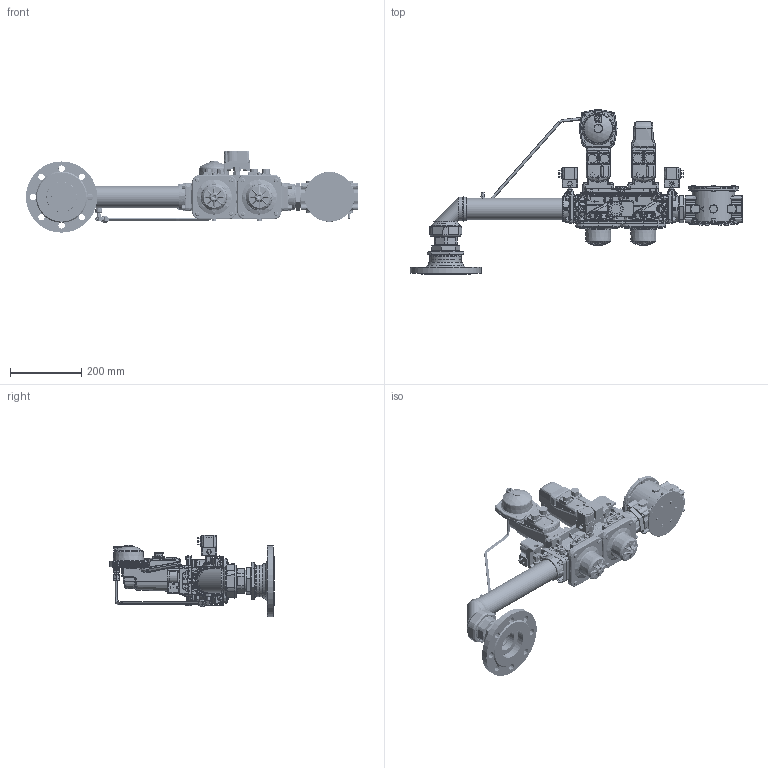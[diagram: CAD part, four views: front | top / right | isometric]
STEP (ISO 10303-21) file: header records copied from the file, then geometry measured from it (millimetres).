
FILE_DESCRIPTION (( 'STEP AP203' ), '1' );
FILE_NAME ('19990599-110882.step', '2016-12-15T11:11:50', ( '' ), ( '' ), 'SwSTEP 2.0', 'SolidWorks 2016', '' );
FILE_SCHEMA (( 'CONFIG_CONTROL_DESIGN' ));
Length unit declared in the file: millimetre
Products named in the file (21): 23867-01479; 0010010014-103297-AUTO; 0006020270-01481; 3793-01437; 0006020262-103298; 0010010014-103296; 0005100118-109191; 31483-01527; 0005040068-101251; 0005090195-110634; 0005150224-109401; 0005150151-100568; 0005090188-110631; 30930-109402; 0010060030-01485; 0005090232-01439; 30282-102826; 4987-01486; 0005090231-01440; 18681-103294; 19990599-110882
Assembly tree (25 placements, depth 3):
  19990599-110882
    0005150224-109401
    30930-109402
    30282-102826  x2
    18681-103294
    0010010014-103296
      0010010014-103297-AUTO
      3793-01437
    31483-01527
    0005090195-110634  x2
    0005090188-110631
    0005090232-01439
    0005090231-01440
    23867-01479
    0006020270-01481
    0006020262-103298
    0005100118-109191
    0005040068-101251  x3
    0005150151-100568  x2
    0010060030-01485
    4987-01486
Bounding box: 932.61 x 462.22 x 228.3 mm (x, y, z)
Volume: 7483214.8 mm3; surface area: 1143886.1 mm2
Topology: 49 solids, 71 shells, 10450 faces, 24938 edges, 14668 vertices
Faces by surface type: bspline 4231, cylinder 2693, plane 2686, cone 488, torus 284, sphere 68
Full cylindrical faces by diameter (mm): 1 x1, 1.5 x2, 2 x5, 3 x2, 3.1 x1, 4 x6, 4.2 x16, 4.3 x4, 4.35 x6, 4.351 x2, 4.5 x1, 4.8 x3, 5 x17, 5.4 x1, 5.5 x6, 5.9 x1, 6 x3, 6.2 x3, 6.5 x9, 7 x2, 7.76 x24, 8 x23, 8.4 x8, 8.5 x1, 8.55 x1, 8.6 x1, 8.8 x1, 9 x28, 9.5 x7, 9.728 x7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
Entity records: 451948 total; most frequent: CARTESIAN_POINT 272694, ORIENTED_EDGE 41666, DIRECTION 28363, EDGE_CURVE 20833, VERTEX_POINT 12691, AXIS2_PLACEMENT_3D 10968, EDGE_LOOP 10546, FACE_OUTER_BOUND 9877
